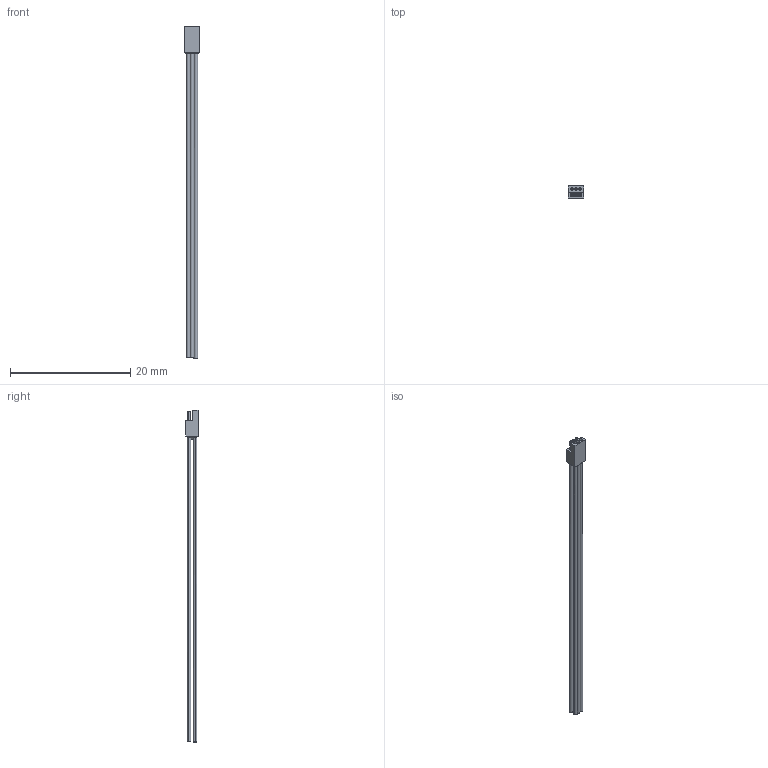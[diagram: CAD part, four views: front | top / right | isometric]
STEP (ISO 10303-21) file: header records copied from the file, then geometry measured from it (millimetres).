
FILE_DESCRIPTION (( 'STEP AP214' ), '1' );
FILE_NAME ('A79605-001 REV D.STEP', '2015-11-06T14:27:17', ( '' ), ( '' ), 'SwSTEP 2.0', 'SolidWorks 2015', '' );
FILE_SCHEMA (( 'AUTOMOTIVE_DESIGN' ));
Length unit declared in the file: inch
Products named in the file (1): A79605-001
Bounding box: 2.54 x 2.03 x 55.12 mm (x, y, z)
Volume: 104.1 mm3; surface area: 671.9 mm2
Topology: 1 solids, 4 shells, 92 faces, 206 edges, 133 vertices
Faces by surface type: cylinder 52, plane 32, bspline 8
Entity records: 2796 total; most frequent: CARTESIAN_POINT 756, DIRECTION 408, ORIENTED_EDGE 404, EDGE_CURVE 202, AXIS2_PLACEMENT_3D 169, VERTEX_POINT 133, EDGE_LOOP 113, ADVANCED_FACE 92
